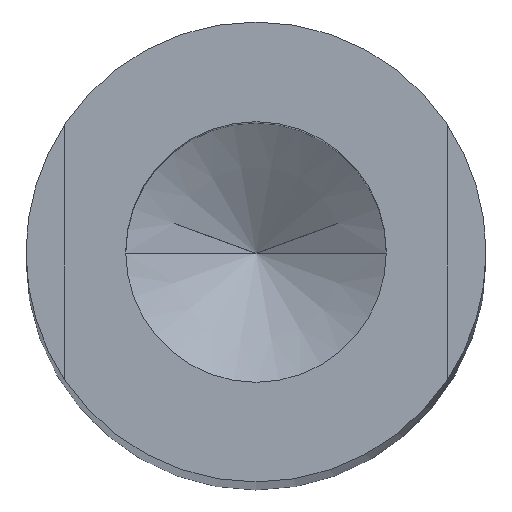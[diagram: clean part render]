
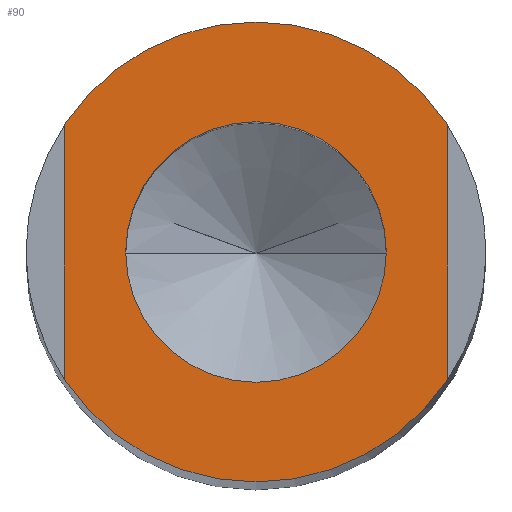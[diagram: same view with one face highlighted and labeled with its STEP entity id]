
A CAD part, top view. The second image highlights one B-rep face of the part: STEP entity #90.
In plain terms, the highlighted planar face has unit normal (0, 0, 1).
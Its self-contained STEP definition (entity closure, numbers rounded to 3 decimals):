
#9 = DIRECTION ( 'NONE',  ( 1., 0., 0. ) ) ;
#10 = DIRECTION ( 'NONE',  ( 0., 0., 1. ) ) ;
#12 = EDGE_LOOP ( 'NONE', ( #85, #87, #88, #84 ) ) ;
#28 = EDGE_CURVE ( 'NONE', #128, #127, #188, .T. ) ;
#30 = EDGE_CURVE ( 'NONE', #68, #103, #246, .T. ) ;
#32 = ORIENTED_EDGE ( 'NONE', *, *, #123, .F. ) ;
#68 = VERTEX_POINT ( 'NONE', #304 ) ;
#83 = EDGE_CURVE ( 'NONE', #107, #130, #270, .T. ) ;
#84 = ORIENTED_EDGE ( 'NONE', *, *, #106, .T. ) ;
#85 = ORIENTED_EDGE ( 'NONE', *, *, #28, .F. ) ;
#86 = EDGE_LOOP ( 'NONE', ( #93, #32 ) ) ;
#87 = ORIENTED_EDGE ( 'NONE', *, *, #121, .T. ) ;
#88 = ORIENTED_EDGE ( 'NONE', *, *, #83, .F. ) ;
#90 = ADVANCED_FACE ( 'NONE', ( #320, #162 ), #238, .T. ) ;
#93 = ORIENTED_EDGE ( 'NONE', *, *, #30, .F. ) ;
#103 = VERTEX_POINT ( 'NONE', #172 ) ;
#106 = EDGE_CURVE ( 'NONE', #107, #127, #171, .T. ) ;
#107 = VERTEX_POINT ( 'NONE', #292 ) ;
#121 = EDGE_CURVE ( 'NONE', #128, #130, #281, .T. ) ;
#123 = EDGE_CURVE ( 'NONE', #103, #68, #255, .T. ) ;
#127 = VERTEX_POINT ( 'NONE', #322 ) ;
#128 = VERTEX_POINT ( 'NONE', #321 ) ;
#130 = VERTEX_POINT ( 'NONE', #325 ) ;
#161 = AXIS2_PLACEMENT_3D ( 'NONE', #211, #210, #209 ) ;
#162 = FACE_BOUND ( 'NONE', #86, .T. ) ;
#171 = CIRCLE ( 'NONE', #290, 6. ) ;
#172 = CARTESIAN_POINT ( 'NONE',  ( -3.4, 0., 120. ) ) ;
#185 = DIRECTION ( 'NONE',  ( 1., 0., 0. ) ) ;
#186 = DIRECTION ( 'NONE',  ( 0., 1., 0. ) ) ;
#187 = VECTOR ( 'NONE', #186, 1000. ) ;
#188 = LINE ( 'NONE', #191, #187 ) ;
#191 = CARTESIAN_POINT ( 'NONE',  ( -5., 0., 120. ) ) ;
#209 = DIRECTION ( 'NONE',  ( 1., 0., 0. ) ) ;
#210 = DIRECTION ( 'NONE',  ( 0., 0., 1. ) ) ;
#211 = CARTESIAN_POINT ( 'NONE',  ( 0., 0., 120. ) ) ;
#236 = AXIS2_PLACEMENT_3D ( 'NONE', #251, #10, #9 ) ;
#238 = PLANE ( 'NONE',  #161 ) ;
#239 = DIRECTION ( 'NONE',  ( 0., -1., 0. ) ) ;
#240 = VECTOR ( 'NONE', #239, 1000. ) ;
#241 = CARTESIAN_POINT ( 'NONE',  ( 5., 0., 120. ) ) ;
#246 = CIRCLE ( 'NONE', #274, 3.4 ) ;
#251 = CARTESIAN_POINT ( 'NONE',  ( 0., 0., 120. ) ) ;
#253 = DIRECTION ( 'NONE',  ( 1., 0., 0. ) ) ;
#254 = DIRECTION ( 'NONE',  ( 0., 0., 1. ) ) ;
#255 = CIRCLE ( 'NONE', #236, 3.4 ) ;
#270 = LINE ( 'NONE', #241, #240 ) ;
#272 = DIRECTION ( 'NONE',  ( 0., 0., 1. ) ) ;
#273 = CARTESIAN_POINT ( 'NONE',  ( 0., 0., 120. ) ) ;
#274 = AXIS2_PLACEMENT_3D ( 'NONE', #273, #272, #185 ) ;
#281 = CIRCLE ( 'NONE', #285, 6. ) ;
#285 = AXIS2_PLACEMENT_3D ( 'NONE', #286, #254, #253 ) ;
#286 = CARTESIAN_POINT ( 'NONE',  ( 0., 0., 120. ) ) ;
#287 = DIRECTION ( 'NONE',  ( 1., 0., 0. ) ) ;
#288 = DIRECTION ( 'NONE',  ( 0., 0., 1. ) ) ;
#289 = CARTESIAN_POINT ( 'NONE',  ( 0., 0., 120. ) ) ;
#290 = AXIS2_PLACEMENT_3D ( 'NONE', #289, #288, #287 ) ;
#292 = CARTESIAN_POINT ( 'NONE',  ( 5., 3.317, 120. ) ) ;
#304 = CARTESIAN_POINT ( 'NONE',  ( 3.4, 0., 120. ) ) ;
#320 = FACE_OUTER_BOUND ( 'NONE', #12, .T. ) ;
#321 = CARTESIAN_POINT ( 'NONE',  ( -5., -3.317, 120. ) ) ;
#322 = CARTESIAN_POINT ( 'NONE',  ( -5., 3.317, 120. ) ) ;
#325 = CARTESIAN_POINT ( 'NONE',  ( 5., -3.317, 120. ) ) ;
